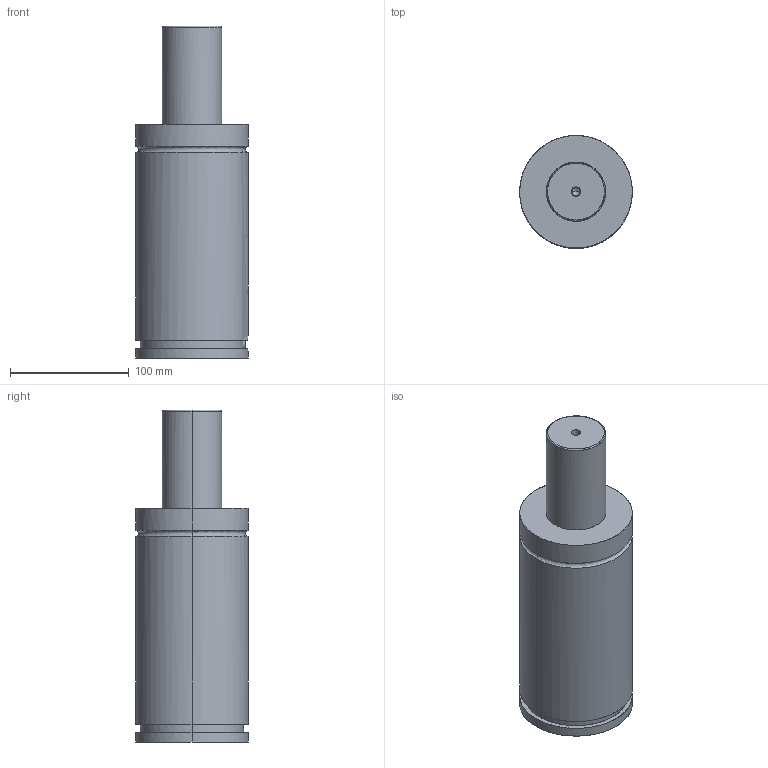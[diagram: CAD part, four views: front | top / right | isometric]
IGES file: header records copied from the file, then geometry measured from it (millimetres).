
Global section: file name: E:\UnigraphicsGraphicData\MISUMI_PRESS-PARTS\IGES\3d_gse95-80_03862_r00.igs; native system: NX V5.0; preprocessor: UGS NX IGES V5.0; author: MISUMI; date: 20110105.160804; units: millimetre
Bounding box: 95 x 95 x 280 mm (x, y, z)
Surface area: 91304.4 mm2 (no closed solid volume)
Topology: 0 solids, 0 shells, 75 faces, 604 edges, 602 vertices
Faces by surface type: bspline 75
